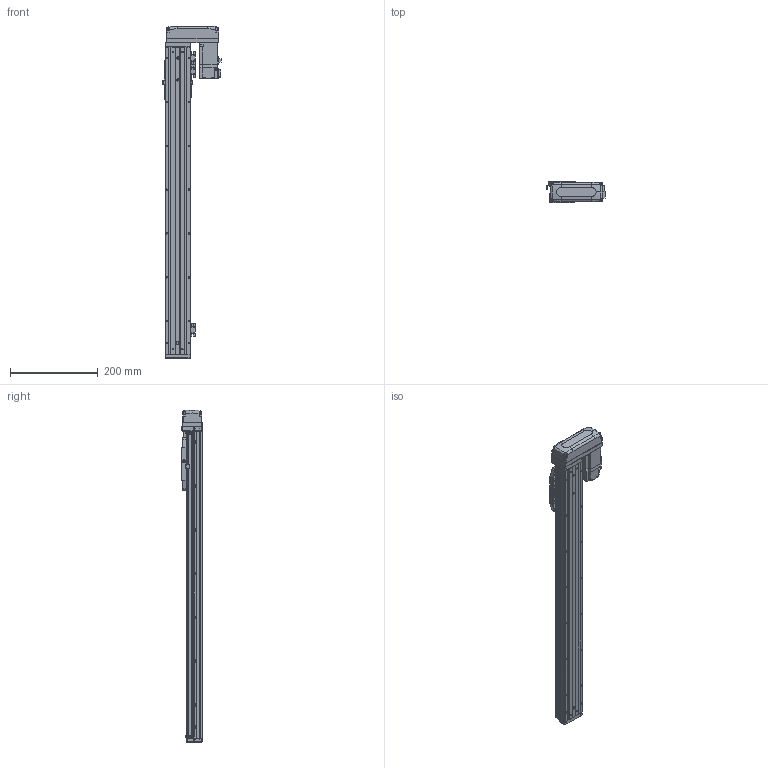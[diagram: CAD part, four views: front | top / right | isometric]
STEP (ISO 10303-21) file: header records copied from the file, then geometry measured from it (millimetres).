
FILE_DESCRIPTION (( 'STEP AP203' ), '1' );
FILE_NAME ('CTHA50-550-BL-M10-C4L.step', '2022-03-19T06:00:23', ( '微软用户' ), ( '微软中国' ), 'SwSTEP 2.0', 'SolidWorks 2020', '' );
FILE_SCHEMA (( 'CONFIG_CONTROL_DESIGN' ));
Length unit declared in the file: millimetre
Products named in the file (20): CTHA50-015-2_CTHA60-015-2; GB¨uT 70.2-M3¡Á6_M3¡Á6; CTHA60-021; CTHA60-033; EE_SX911P_R; HG-KR13（三菱）; GBT 70.1-M3×15; GBT77-2000 M3×3; CTHA50-002; CTHA50-550-BL-M10-C4L; GBT 70.1-M3℅6; CTHA50-030; KTHA50-001_700; CTHA60-017; CTHA50-031; KTHA50-004; GBT 70.1-M4×12; GBT 70.3-M3℅6; KTHA50-005; CTHA60-016
Assembly tree (60 placements, depth 2):
  CTHA50-550-BL-M10-C4L
    KTHA50-001_700
    KTHA50-004
    KTHA50-005
    GB¨uT 70.2-M3¡Á6_M3¡Á6  x10
    EE_SX911P_R  x3
    GBT77-2000 M3×3  x6
    GBT 70.1-M3℅6  x6
    CTHA60-017  x3
    GBT 70.1-M4×12  x10
    CTHA60-016  x2
    CTHA60-021  x2
    HG-KR13（三菱）
    CTHA50-002
    CTHA50-030  x2
    CTHA50-031
    GBT 70.3-M3℅6  x4
    CTHA50-015-2_CTHA60-015-2
    CTHA60-033
    GBT 70.1-M3×15  x4
Bounding box: 132.6 x 48 x 757 mm (x, y, z)
Volume: 1455529.6 mm3; surface area: 372195.2 mm2
Topology: 62 solids, 62 shells, 2553 faces, 6079 edges, 3726 vertices
Faces by surface type: plane 1446, cylinder 594, cone 355, torus 108, bspline 26, sphere 24
Entity records: 43977 total; most frequent: CARTESIAN_POINT 8107, DIRECTION 6865, ORIENTED_EDGE 6666, EDGE_CURVE 3333, VECTOR 2337, LINE 2337, AXIS2_PLACEMENT_3D 2264, VERTEX_POINT 2100
